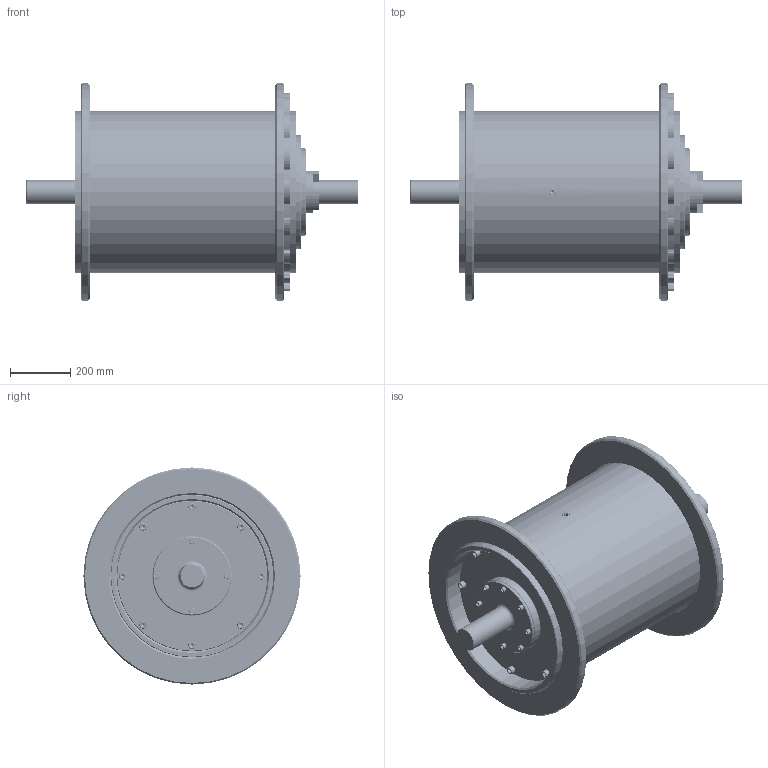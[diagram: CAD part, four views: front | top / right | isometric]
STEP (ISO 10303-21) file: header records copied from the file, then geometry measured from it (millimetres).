
FILE_DESCRIPTION(/* description */ (''),/* implementation_level */ '2;1');
FILE_NAME(/* name */ 'C:\Users\jbart\OneDrive\Plocha\Nová složka\3D modely - stp\BP-Bartos-Navijak.stp',/* time_stamp */ '2025-05-15T16:45:03+02:00',/* author */ ('jbart'),/* organization */ (''),/* preprocessor_version */ 'ST-DEVELOPER v18.1',/* originating_system */ 'Autodesk Inventor 2022',/* authorisation */ '');
FILE_SCHEMA (('AUTOMOTIVE_DESIGN { 1 0 10303 214 3 1 1 }'));
Products named in the file (81): BP-Bartos-Navijak; Bočnice; CSN 02 4630 - 6414; CSN 02 2931 - 180; CSN 02 4630 - 6414_1; Víčko I; Pouzdro I; CSN 02 2930 - 70; Hřídel I; CSN 02 2562 - 16x10x50; CSN  02 4720 - 32952; CSN  02 4720 - 32948; Pouzdro II; Hřídel II; Čelní ozubená kola; Čelní ozubené kolo1; CSN 02 4630 - 6208; CSN 02 2930 - 40; Unášeč A-1; CSN 02 2930 - 50; CSN 02 2930 - 50_1; Hřídel IV; Satelit A; Čelní ozubená kola_1; Čelní ozubené kolo1_1; Unášeč A-2; Hřídel III; Čelní ozubená kola_2; Čelní ozubené kolo1_2; Distanční kroužek II; Unášeč B-2; CSN 02 1143 - M12 x 20; CSN 02 1143 - M12 x 20_1; CSN 02 1143 - M12 x 20_2; CSN 02 1143 - M12 x 20_3; CSN 02 1143 - M12 x 25; CSN 02 1143 - M12 x 25_1; CSN 02 1143 - M12 x 25_2; Satelit B; Čelní ozubená kola_3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
Assembly tree (131 placements, depth 4):
  BP-Bartos-Navijak
    Bočnice
    CSN 02 4630 - 6414
    CSN 02 2931 - 180
    CSN 02 4630 - 6414_1
    Víčko I
    Pouzdro I
    CSN 02 2930 - 70
    Hřídel I
    CSN 02 2562 - 16x10x50
    CSN  02 4720 - 32952
    CSN  02 4720 - 32948
    Pouzdro II
    Hřídel II
      Čelní ozubená kola
        Čelní ozubené kolo1
    CSN 02 4630 - 6208
    CSN 02 2930 - 40
    Unášeč A-1
    Hřídel IV  x3
    Distanční kroužek I_2  x10
    CSN 02 2930 - 50
    CSN 02 2930 - 50_1
    Satelit A  x3
      Čelní ozubená kola_1
        Čelní ozubené kolo1_1
    CSN 02 4630 - 6010_2  x10
    CSN 02 2930 - 50_4  x8
    Unášeč A-2
    Hřídel III
      Čelní ozubená kola_2
        Čelní ozubené kolo1_2
    Distanční kroužek II
    Unášeč B-2
    CSN 02 1143 - M12 x 20
    CSN 02 1143 - M12 x 20_1
    CSN 02 1143 - M12 x 20_2
    CSN 02 1143 - M12 x 20_3  x5
    CSN 02 1143 - M12 x 25
    CSN 02 1143 - M12 x 25_1  x4
    CSN 02 1143 - M12 x 25_2
    Satelit B_1  x2
      Čelní ozubená kola_4
        Čelní ozubené kolo1_4
    Hřídel V_1  x2
    Satelit B
      Čelní ozubená kola_3
        Čelní ozubené kolo1_3
    Hřídel V
    CSN 02 4630 - 6010
    CSN 02 4630 - 6010_1
    Distanční kroužek I
    Distanční kroužek I_1
    CSN 02 2930 - 50_2
    CSN 02 2930 - 50_3
    Unášeč B-1
    Korunové kolo B
      Čelní ozubená kola_5
        Čelní ozubené kolo2
    Korunové kolo A
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Bounding box: 1101 x 720 x 720 mm (x, y, z)
Volume: 131193982.4 mm3; surface area: 10578797.1 mm2
Topology: 312 solids, 312 shells, 4456 faces, 11878 edges, 7780 vertices
Faces by surface type: cylinder 1835, cone 1001, plane 888, torus 553, sphere 179
Full cylindrical faces by diameter (mm): 2.5 x28, 4 x2, 10.106 x22, 12 x22, 13 x14, 13.5 x8, 13.835 x17, 16 x17, 17.294 x6, 17.5 x16, 18 x22, 20 x14, 24 x17, 26 x1, 37.5 x1, 40 x3, 47 x12, 50 x45, 51 x13, 53.04 x2, 54 x7, 56 x12, 59.78 x24, 60 x2, 64 x1, 66.96 x2, 67 x1, 68 x1, 69 x1, 70 x6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
Entity records: 103861 total; most frequent: CARTESIAN_POINT 20533, DIRECTION 18443, ORIENTED_EDGE 16396, EDGE_CURVE 8198, AXIS2_PLACEMENT_3D 7989, VERTEX_POINT 5595, CIRCLE 4661, EDGE_LOOP 3565
